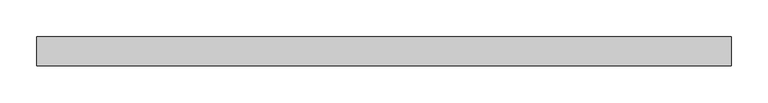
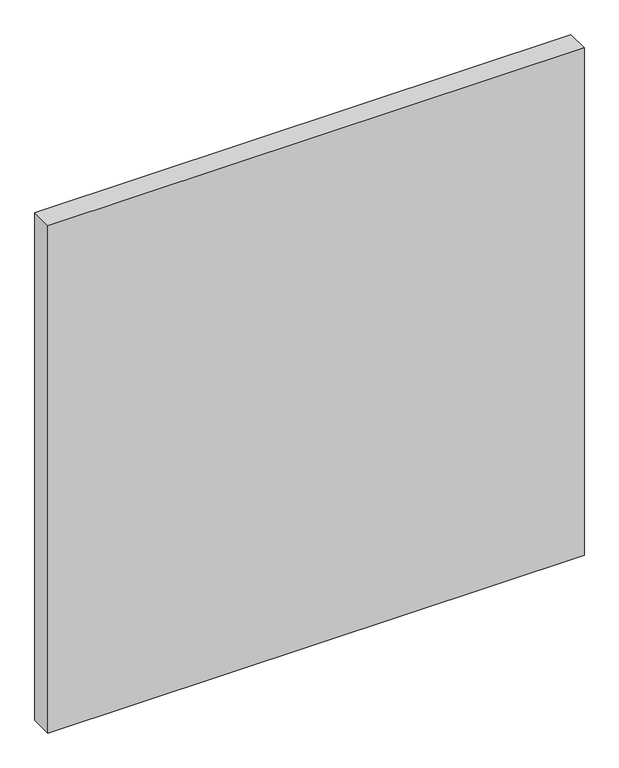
"""IFC4 building model written with IfcOpenShell, lengths in millimetres: plate geometry, Panneau système : Vitré."""

from ifc_helpers import new_model, si_unit, origin, origin_with_axes, place, context, project, spatial, polyline, outline, extrude, source, transform, mapped, element, save


def plate_974efe25(model_context):
    return source(origin(), model_context, "Body", "SweptSolid", [
        extrude(outline(polyline([(475.0, 5.0), (-475.0, 5.0), (-475.0, 45.0), (475.0, 45.0), (475.0, 5.0)])), origin_with_axes(), (0.0, 0.0, 1.0), 950.0),
    ])


if __name__ == "__main__":
    model = new_model("IFC4")
    model_context = context("Model", 3, world=origin())
    ifc_project = project(units=[si_unit("LENGTHUNIT", "METRE", prefix="MILLI")], contexts=[model_context])
    site = spatial("IfcSite", under=ifc_project)
    building = spatial("IfcBuilding", under=site)
    placement = place(None, origin())
    plate_shape = plate_974efe25(model_context)
    element("IfcPlate", 1, ObjectType="Panneau système : Vitré", at=placement, inside=building, context=model_context, shape_type="MappedRepresentation", body=[
        mapped(plate_shape, transform((0.0, 0.0, 0.0), x_axis=(1.0, 0.0, 0.0), y_axis=(0.0, 1.0, 0.0), z_axis=(0.0, 0.0, 1.0))),
    ])
    save(model, "model.ifc")
